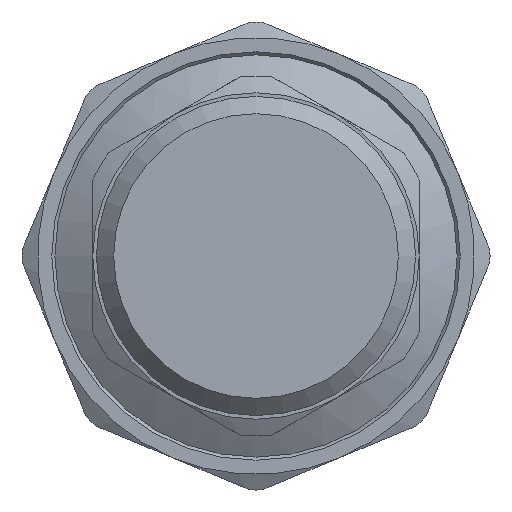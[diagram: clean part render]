
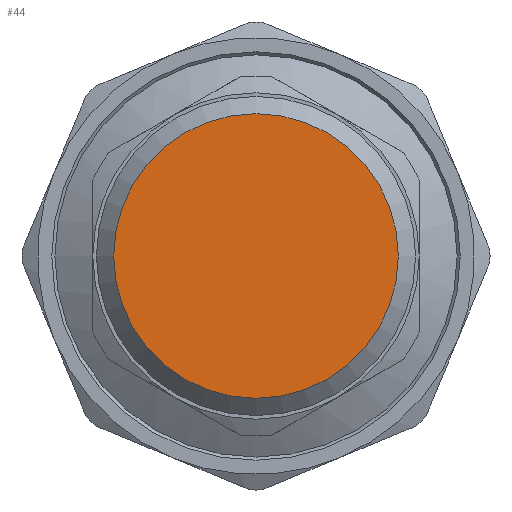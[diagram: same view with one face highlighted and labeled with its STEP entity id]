
A CAD part, front view. The second image highlights one B-rep face of the part: STEP entity #44.
In plain terms, the highlighted planar face has unit normal (0, -1, 0).
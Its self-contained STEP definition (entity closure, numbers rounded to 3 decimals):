
#44=ADVANCED_FACE('',(#108),#110,.F.);
#108=FACE_BOUND('',#109,.T.);
#109=EDGE_LOOP('',(#580));
#110=PLANE('',#111);
#111=AXIS2_PLACEMENT_3D('',#112,#113,#114);
#112=CARTESIAN_POINT('',(0.,0.,0.));
#113=DIRECTION('',(0.,1.,0.));
#114=DIRECTION('',(-1.,0.,0.));
#580=ORIENTED_EDGE('',*,*,#860,.F.);
#860=EDGE_CURVE('',#1000,#1000,#1001,.T.);
#1000=VERTEX_POINT('',#1230);
#1001=CIRCLE('',#1231,14.825);
#1230=CARTESIAN_POINT('',(-14.825,0.,0.));
#1231=AXIS2_PLACEMENT_3D('',#1232,#1233,#1234);
#1232=CARTESIAN_POINT('',(0.,0.,0.));
#1233=DIRECTION('',(0.,1.,0.));
#1234=DIRECTION('',(-1.,0.,0.));
